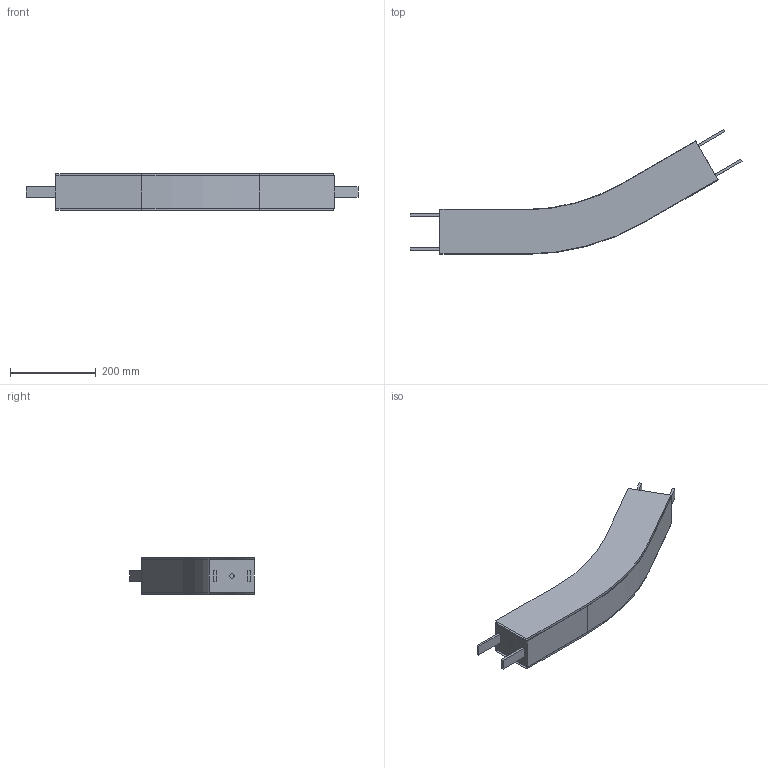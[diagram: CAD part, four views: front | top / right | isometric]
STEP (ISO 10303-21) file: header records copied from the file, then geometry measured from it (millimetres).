
FILE_DESCRIPTION(/* description */ ('Horizontaler Gleitbogen, 30°, R500'),/* implementation_level */ '2;1');
FILE_NAME(/* name */ 'T:\vdz0\Step Daten Website\modulflex FH-System\Horizontale Gleitbögen\FHBP 30R500_44004.stp',/* time_stamp */ '2024-09-03T12:05:52+02:00',/* author */ ('lzb0'),/* organization */ ('modular automation GmbH'),/* preprocessor_version */ 'ST-DEVELOPER v18.1',/* originating_system */ 'Autodesk Inventor 2021',/* authorisation */ '');
FILE_SCHEMA (('AUTOMOTIVE_DESIGN { 1 0 10303 214 3 1 1 }'));
Length unit declared in the file: millimetre
Products named in the file (1): FHBP 30R500
Bounding box: 775.33 x 291.73 x 86 mm (x, y, z)
Volume: 5295670.2 mm3; surface area: 577767 mm2
Topology: 5 solids, 9 shells, 52 faces, 126 edges, 84 vertices
Faces by surface type: plane 44, cylinder 8
Full cylindrical faces by diameter (mm): 10 x2
Entity records: 1596 total; most frequent: CARTESIAN_POINT 270, DIRECTION 250, ORIENTED_EDGE 232, EDGE_CURVE 126, LINE 110, VECTOR 110, VERTEX_POINT 84, AXIS2_PLACEMENT_3D 70
